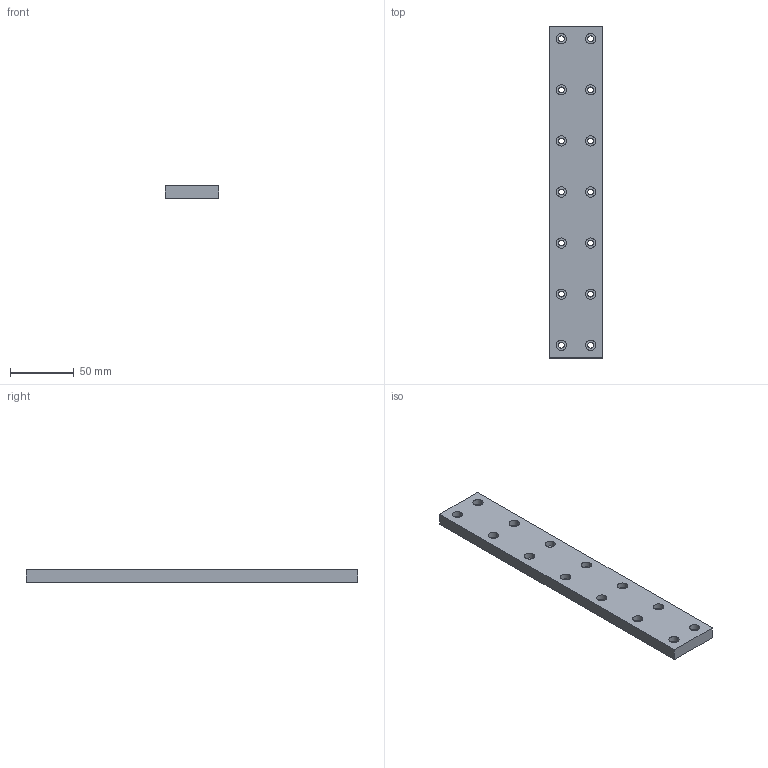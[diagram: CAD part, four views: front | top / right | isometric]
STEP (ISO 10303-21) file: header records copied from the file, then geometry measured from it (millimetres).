
FILE_DESCRIPTION (( 'STEP AP203' ), '1' );
FILE_NAME ('Separator_rail.step', '2026-06-05T03:32:59', ( '' ), ( '' ), 'SwSTEP 2.0', 'SolidWorks 2024', '' );
FILE_SCHEMA (( 'CONFIG_CONTROL_DESIGN' ));
Length unit declared in the file: millimetre
Products named in the file (1): Separator_rail
Bounding box: 42 x 260 x 9.5 mm (x, y, z)
Volume: 99460 mm3; surface area: 29705.6 mm2
Topology: 1 solids, 1 shells, 76 faces, 180 edges, 120 vertices
Faces by surface type: cylinder 56, plane 20
Entity records: 2389 total; most frequent: DIRECTION 446, CARTESIAN_POINT 377, ORIENTED_EDGE 360, AXIS2_PLACEMENT_3D 189, EDGE_CURVE 180, VERTEX_POINT 120, EDGE_LOOP 118, CIRCLE 112
